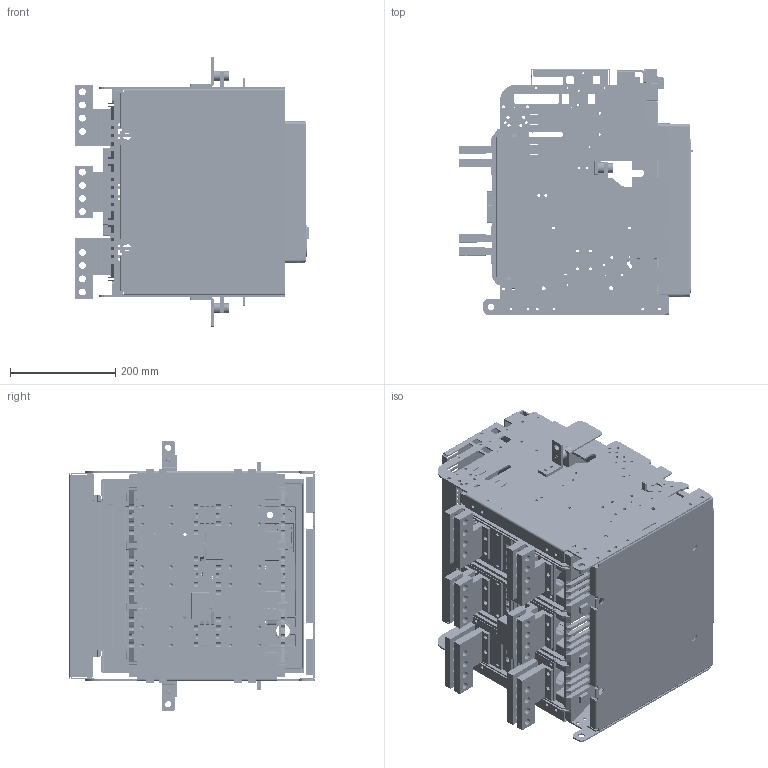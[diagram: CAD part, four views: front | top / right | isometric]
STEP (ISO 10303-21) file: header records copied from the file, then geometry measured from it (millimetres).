
FILE_DESCRIPTION((''),'2;1');
FILE_NAME('HG_15_B403H_ASM_ASM','2019-03-28T',('HHI'),(''),'PRO/ENGINEER BY PARAMETRIC TECHNOLOGY CORPORATION, 2012453','PRO/ENGINEER BY PARAMETRIC TECHNOLOGY CORPORATION, 2012453','');
FILE_SCHEMA(('CONFIG_CONTROL_DESIGN'));
Products named in the file (45): PRT0194; PRT0195; ASM0054_ASM; PRT0196; PRT0197; PRT0198; ASM0055_ASM; PRT0199; PRT0200; PRT0201; ISOLATING_CONDUCTOR_L100_ASM_8_ASM; ISOLATING_CONDUCTOR_L75_ASM_8_ASM; PRT0202; PRT0204; PRT0205; PRT0206; PRT0207; ASM0057_ASM; PRT0208; PRT0209; PRT0210; ASM0058_ASM; PRT0213; ASM0056_ASM; PRT0214; PRT0215; PRT0216; PRT0217; PRT0218; ASM0059_ASM; PRT0219; PRT0220; FIX_BLOCK_CRADLE_6; BOLT_5; ASM0060_ASM; B403V_ASM_12_ASM; HG_FRONT_COVER_40; 4AT-06477S03; 4AT-06477S04; ISOLATING_CONDUCTOR_H_L100_1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
Assembly tree (61 placements, depth 5):
  HG_15_B403H_ASM_ASM
    B403V_ASM_12_ASM
      ASM0054_ASM
        PRT0194
        PRT0195
      PRT0196
      ASM0055_ASM
        PRT0197
        PRT0198
      PRT0199
      PRT0200
      PRT0201
      ISOLATING_CONDUCTOR_L100_ASM_8_ASM  x3
      ISOLATING_CONDUCTOR_L75_ASM_8_ASM  x3
      ASM0056_ASM
        PRT0202
        ASM0057_ASM
          PRT0204
          PRT0205
          PRT0206
          PRT0207
        ASM0058_ASM
          PRT0208
          PRT0209
          PRT0210
        PRT0213
      PRT0214
      ASM0059_ASM
        PRT0215
        PRT0216
        PRT0217
        PRT0218
      ASM0060_ASM
        PRT0219
        PRT0220
        FIX_BLOCK_CRADLE_6
        BOLT_5
    HG_FRONT_COVER_40
    4AT-06477S03
    4AT-06477S04
    ISOLATING_CONDUCTOR_H_L100_1  x3
    ISOLATING_CONDUCTOR_H_L75_1  x3
    JOINT_TERMINAL_40H_R_14  x4
    JOINT_TERMINAL_40H_L_11  x4
    JOINT_TERMINAL_40H_MM_5  x4
Bounding box: 446.03 x 466.35 x 511 mm (x, y, z)
Volume: 6513997.9 mm3; surface area: 3571377.1 mm2
Topology: 47 solids, 47 shells, 14848 faces, 43587 edges, 28454 vertices
Faces by surface type: plane 10887, cylinder 3251, torus 235, extrusion 141, sphere 137, cone 116, bspline 81
Entity records: 475025 total; most frequent: CARTESIAN_POINT 90680, ORIENTED_EDGE 83088, DIRECTION 75418, EDGE_CURVE 41544, VECTOR 34590, LINE 34449, VERTEX_POINT 27112, AXIS2_PLACEMENT_3D 20414
